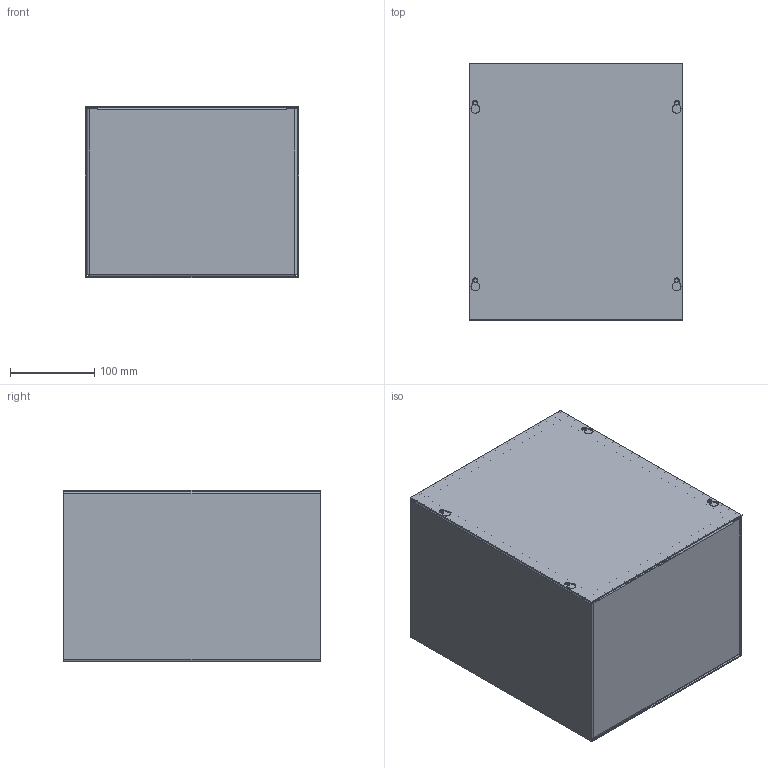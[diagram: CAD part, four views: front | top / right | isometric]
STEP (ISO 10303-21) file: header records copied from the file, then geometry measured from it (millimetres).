
FILE_DESCRIPTION (( 'STEP AP203' ), '1' );
FILE_NAME ('ase12x10x8nk.STEP', '2011-02-04T20:17:51', ( 'Hoffman User' ), ( 'Hoffman Enclosures' ), 'SwSTEP 2.0', 'SolidWorks 2009', '' );
FILE_SCHEMA (( 'CONFIG_CONTROL_DESIGN' ));
Length unit declared in the file: inch
Products named in the file (5): 42304058; ase12x10x8nk; 89054605_89050076; 87757851; 87757812
Assembly tree (5 placements, depth 3):
  ase12x10x8nk
    89054605_89050076
      87757812  x2
      87757851
    42304058
Bounding box: 254 x 304.8 x 204.6 mm (x, y, z)
Volume: 567941.8 mm3; surface area: 820668.5 mm2
Topology: 4 solids, 4 shells, 189 faces, 432 edges, 254 vertices
Faces by surface type: plane 107, cylinder 60, torus 10, bspline 8, cone 4
Entity records: 5187 total; most frequent: CARTESIAN_POINT 1170, DIRECTION 764, ORIENTED_EDGE 684, EDGE_CURVE 342, AXIS2_PLACEMENT_3D 278, VECTOR 208, LINE 208, VERTEX_POINT 204
